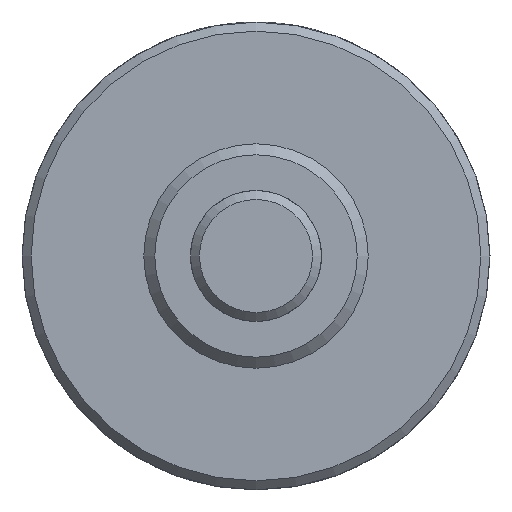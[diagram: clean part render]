
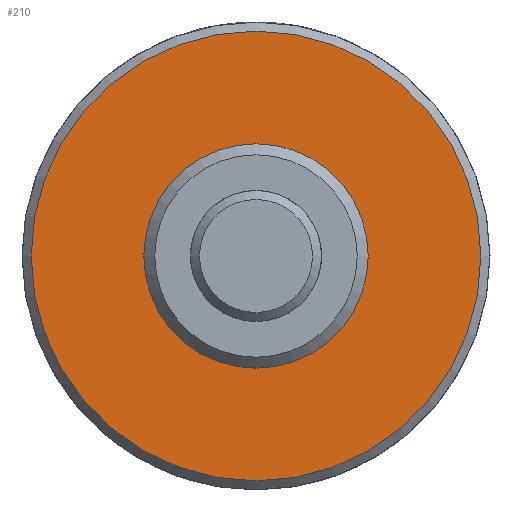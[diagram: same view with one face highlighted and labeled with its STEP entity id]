
A CAD part, left-side view. The second image highlights one B-rep face of the part: STEP entity #210.
In plain terms, the highlighted planar face has unit normal (-1, 0, 0).
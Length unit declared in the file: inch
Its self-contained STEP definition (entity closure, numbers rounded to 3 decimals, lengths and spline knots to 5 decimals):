
#210 = ADVANCED_FACE( '', ( #424, #425 ), #426, .F. );
#424 = FACE_OUTER_BOUND( '', #620, .T. );
#425 = FACE_BOUND( '', #621, .T. );
#426 = PLANE( '', #622 );
#620 = EDGE_LOOP( '', ( #953 ) );
#621 = EDGE_LOOP( '', ( #954 ) );
#622 = AXIS2_PLACEMENT_3D( '', #955, #956, #957 );
#953 = ORIENTED_EDGE( '', *, *, #1057, .F. );
#954 = ORIENTED_EDGE( '', *, *, #1037, .T. );
#955 = CARTESIAN_POINT( '', ( 0.625, 0.3745, 0. ) );
#956 = DIRECTION( '', ( 1., 0., 0. ) );
#957 = DIRECTION( '', ( 0., 0., -1. ) );
#1037 = EDGE_CURVE( '', #1200, #1200, #1201, .T. );
#1057 = EDGE_CURVE( '', #1228, #1228, #1229, .T. );
#1200 = VERTEX_POINT( '', #1467 );
#1201 = CIRCLE( '', #1468, 0.3745 );
#1228 = VERTEX_POINT( '', #1500 );
#1229 = CIRCLE( '', #1501, 0.7515 );
#1467 = CARTESIAN_POINT( '', ( 0.625, 0., -0.3745 ) );
#1468 = AXIS2_PLACEMENT_3D( '', #1657, #1658, #1659 );
#1500 = CARTESIAN_POINT( '', ( 0.625, 0., -0.7515 ) );
#1501 = AXIS2_PLACEMENT_3D( '', #1680, #1681, #1682 );
#1657 = CARTESIAN_POINT( '', ( 0.625, 0., 0. ) );
#1658 = DIRECTION( '', ( 1., 0., 0. ) );
#1659 = DIRECTION( '', ( 0., 0., -1. ) );
#1680 = CARTESIAN_POINT( '', ( 0.625, 0., 0. ) );
#1681 = DIRECTION( '', ( 1., 0., 0. ) );
#1682 = DIRECTION( '', ( 0., 0., -1. ) );
